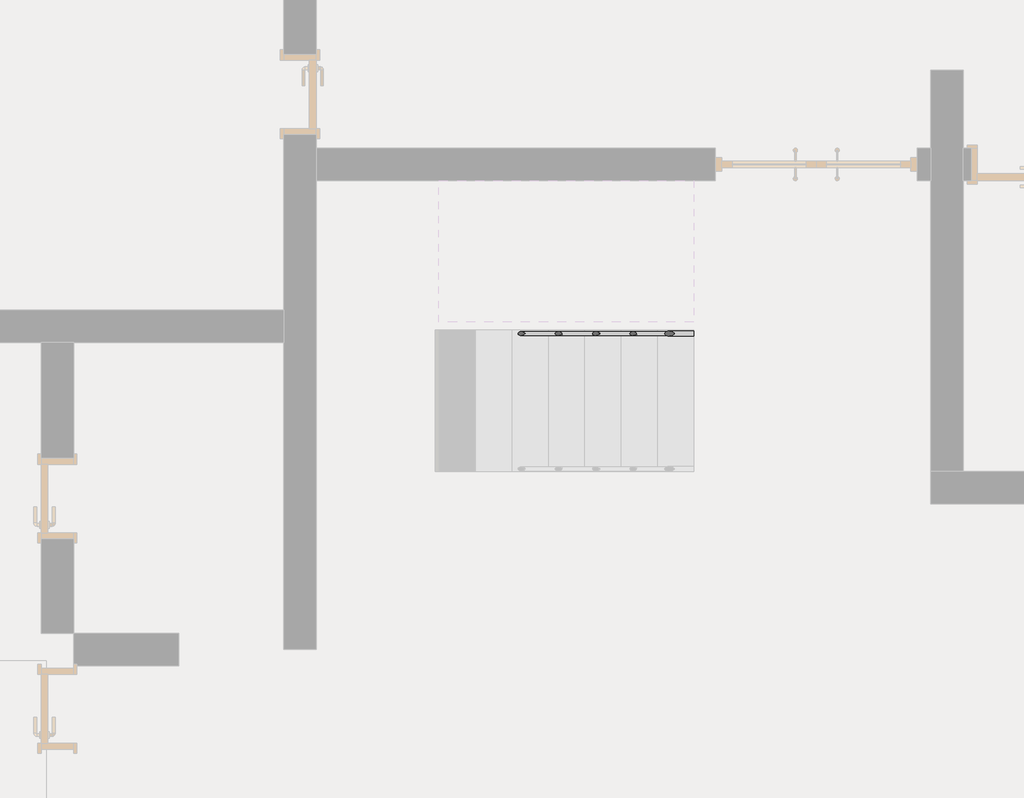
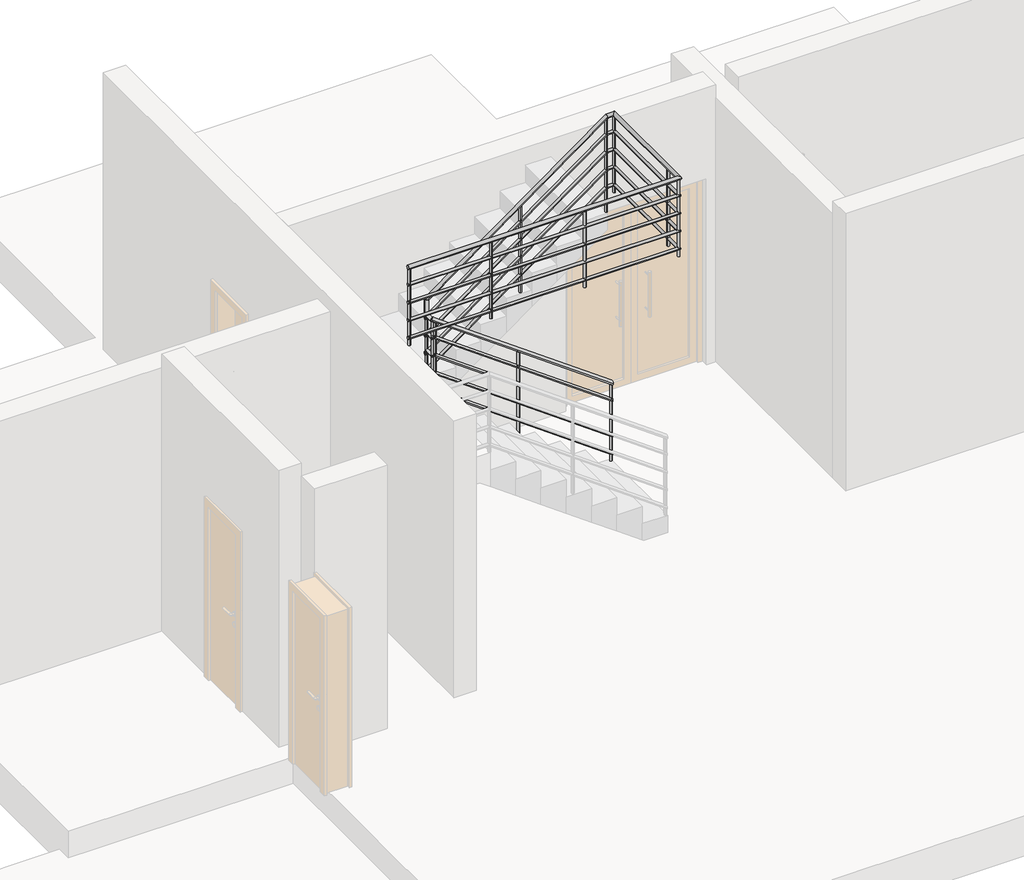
# One storey, part 2 of 3: 1 railing.
"""IFC4 building model written with IfcOpenShell, lengths in millimetres."""

from ifc_helpers import new_model, si_unit, point, frame, frame_2d, origin, place, context, project, spatial, circle_curve, ellipse_curve, trimmed, segment, composite_curve, outline, extrude, element, save
from ifc_brep_helpers import plane_surface, cylinder_surface, advanced_brep

model = new_model("IFC4")

# Units and contexts
model_context = context("Model", 3, world=origin())
ifc_project = project(units=[si_unit("LENGTHUNIT", "METRE", prefix="MILLI")], contexts=[model_context])

# Site, building, storey
site = spatial("IfcSite", under=ifc_project)
building = spatial("IfcBuilding", under=site)
storey = spatial("IfcBuildingStorey", under=building, Name="标高 1", Elevation=0.0)

# Railing
placement = place(None, origin())
element("IfcRailing", 1, ObjectType="900mm 圆管", at=placement, inside=storey, context=model_context, shape_type="SolidModel", body=[
    advanced_brep(
    [(-41537.1400177, -19143.1106127, 1070.6282695), (-41537.1400177, -19183.1106127, 1070.6282695), (-43448.0574737, -19143.1106127, 2452.9470311), (-43480.4668292, -19183.1106127, 2476.3912986)],
    [
        (0, 1, ellipse_curve(frame((-41537.1400177, -19163.1106127, 1070.6282695), z_axis=(1.0, 0.0, 0.0), x_axis=(0.0, 0.0, -1.0)), 24.6842305, 20.0)),
        (1, 0, ellipse_curve(frame((-41537.1400177, -19163.1106127, 1070.6282695), z_axis=(1.0, 0.0, 0.0), x_axis=(0.0, 0.0, -1.0)), 24.6842305, 20.0)),
        (2, 3, ellipse_curve(frame((-43464.2621514, -19163.1106127, 2464.6691649), z_axis=(-0.5729218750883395, 0.7071067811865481, 0.41444001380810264), x_axis=(0.5729218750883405, 0.7071067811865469, -0.4144400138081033)), 28.2842712, 20.0)),
        (3, 2, ellipse_curve(frame((-43464.2621514, -19163.1106127, 2464.6691649), z_axis=(-0.5729218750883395, 0.7071067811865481, 0.41444001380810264), x_axis=(0.5729218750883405, 0.7071067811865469, -0.4144400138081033)), 28.2842712, 20.0)),
        (0, 2),
        (3, 1),
    ],
    [
        plane_surface(frame((-41537.1400177, -19163.1106127, 1095.3125), z_axis=(1.0, 0.0, 0.0), x_axis=(0.0, -1.0, 0.0))),
        plane_surface(frame((-43452.5400177, -19163.1106127, 2480.8738426), z_axis=(-0.5729218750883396, 0.7071067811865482, 0.41444001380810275), x_axis=(0.8196099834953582, 0.49428014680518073, 0.28970089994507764))),
        cylinder_surface(frame((-41548.8621514, -19163.1106127, 1079.1078223), z_axis=(0.8102338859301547, 0.0, -0.586106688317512), x_axis=(0.0, -1.0, 0.0)), 20.0),
    ],
    [
        (0, [[1, 2]]),
        (1, [[3, 4]]),
        (2, [[-1, 5, -4, 6]]),
        (2, [[-2, -6, -3, -5]]),
    ],
),
    advanced_brep(
    [(-43432.5400177, -19135.1838013, 2442.5), (-43472.5400177, -19167.5931567, 2442.5), (-43432.5400177, -19052.3106127, 2442.5), (-43472.5400177, -19052.3106127, 2442.5)],
    [
        (0, 1, ellipse_curve(frame((-43452.5400177, -19151.388479, 2442.5), z_axis=(0.5729218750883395, -0.7071067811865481, -0.41444001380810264), x_axis=(-0.5729218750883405, -0.7071067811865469, 0.4144400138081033)), 28.2842712, 20.0)),
        (1, 0, ellipse_curve(frame((-43452.5400177, -19151.388479, 2442.5), z_axis=(0.5729218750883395, -0.7071067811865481, -0.41444001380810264), x_axis=(-0.5729218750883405, -0.7071067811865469, 0.4144400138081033)), 28.2842712, 20.0)),
        (2, 3, ellipse_curve(frame((-43452.5400177, -19052.3106127, 2442.5), z_axis=(0.0, 0.7071067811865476, 0.7071067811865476), x_axis=(0.0, -0.7071067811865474, 0.7071067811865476)), 28.2842712, 20.0)),
        (3, 2, ellipse_curve(frame((-43452.5400177, -19052.3106127, 2442.5), z_axis=(0.0, 0.7071067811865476, 0.7071067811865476), x_axis=(0.0, -0.7071067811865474, 0.7071067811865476)), 28.2842712, 20.0)),
        (0, 2),
        (3, 1),
    ],
    [
        plane_surface(frame((-43452.5400177, -19163.1106127, 2462.5), z_axis=(0.5729218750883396, -0.7071067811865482, -0.41444001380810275), x_axis=(0.8196099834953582, 0.49428014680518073, 0.28970089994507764))),
        plane_surface(frame((-43452.5400177, -19072.3106127, 2462.5), z_axis=(0.0, 0.7071067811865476, 0.7071067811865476), x_axis=(1.0, 0.0, 0.0))),
        cylinder_surface(frame((-43452.5400177, -19163.1106127, 2442.5), z_axis=(0.0, -1.0, 0.0), x_axis=(-1.0, 0.0, 0.0)), 20.0),
    ],
    [
        (0, [[1, 2]]),
        (1, [[3, 4]]),
        (2, [[-1, 5, -4, 6]]),
        (2, [[-2, -6, -3, -5]]),
    ],
),
    advanced_brep(
    [(-43432.5400177, -19052.3106127, 2442.5), (-43472.5400177, -19052.3106127, 2442.5), (-43432.5400177, -19052.3106127, 2604.537789), (-43472.5400177, -19052.3106127, 2624.9710648)],
    [
        (0, 1, ellipse_curve(frame((-43452.5400177, -19052.3106127, 2442.5), z_axis=(0.0, -0.7071067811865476, -0.7071067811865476), x_axis=(0.0, 0.7071067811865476, -0.7071067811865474)), 28.2842712, 20.0)),
        (1, 0, ellipse_curve(frame((-43452.5400177, -19052.3106127, 2442.5), z_axis=(0.0, -0.7071067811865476, -0.7071067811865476), x_axis=(0.0, 0.7071067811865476, -0.7071067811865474)), 28.2842712, 20.0)),
        (2, 3, ellipse_curve(frame((-43452.5400177, -19052.3106127, 2614.7544269), z_axis=(0.454913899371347, 0.0, 0.8905354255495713), x_axis=(0.8905354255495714, 0.0, -0.45491389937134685)), 22.4583991, 20.0)),
        (3, 2, ellipse_curve(frame((-43452.5400177, -19052.3106127, 2614.7544269), z_axis=(0.454913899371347, 0.0, 0.8905354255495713), x_axis=(0.8905354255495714, 0.0, -0.45491389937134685)), 22.4583991, 20.0)),
        (0, 2),
        (3, 1),
    ],
    [
        plane_surface(frame((-43452.5400177, -19052.3106127, 2442.5), z_axis=(0.0, -0.7071067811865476, -0.7071067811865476), x_axis=(1.0, 0.0, 0.0))),
        plane_surface(frame((-43452.5400177, -19052.3106127, 2614.7544269), z_axis=(0.454913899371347, 0.0, 0.8905354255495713), x_axis=(0.8905354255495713, 0.0, -0.454913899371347))),
        cylinder_surface(frame((-43452.5400177, -19052.3106127, 2442.5), z_axis=(0.0, 0.0, -1.0), x_axis=(-1.0, 0.0, 0.0)), 20.0),
    ],
    [
        (0, [[1, 2]]),
        (1, [[3, 4]]),
        (2, [[-1, 5, -4, 6]]),
        (2, [[-2, -6, -3, -5]]),
    ],
),
    advanced_brep(
    [(-43452.5400177, -19072.3106127, 2614.7544269), (-43452.5400177, -19032.3106127, 2614.7544269), (-41530.6645374, -19072.3106127, 4005.0), (-41530.6645374, -19032.3106127, 4005.0), (-41471.7400177, -19072.3106127, 4005.0), (-41431.7400177, -19032.3106127, 4005.0), (-41471.7400177, -20223.1106127, 4005.0), (-41431.7400177, -20263.1106127, 4005.0), (-44337.1400177, -20223.1106127, 4005.0), (-44337.1400177, -20263.1106127, 4005.0)],
    [
        (0, 1, ellipse_curve(frame((-43452.5400177, -19052.3106127, 2614.7544269), z_axis=(-0.454913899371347, 0.0, -0.8905354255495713), x_axis=(-0.8905354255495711, 0.0, 0.4549138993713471)), 22.4583991, 20.0)),
        (1, 0, ellipse_curve(frame((-43452.5400177, -19052.3106127, 2614.7544269), z_axis=(-0.454913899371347, 0.0, -0.8905354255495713), x_axis=(-0.8905354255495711, 0.0, 0.4549138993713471)), 22.4583991, 20.0)),
        (0, 2),
        (2, 3, ellipse_curve(frame((-41530.6645374, -19052.3106127, 4005.0), z_axis=(-0.9513763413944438, 0.0, -0.30803093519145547), x_axis=(0.30803093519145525, 0.0, -0.9513763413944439)), 21.0221751, 20.0)),
        (3, 1),
        (3, 2, ellipse_curve(frame((-41530.6645374, -19052.3106127, 4005.0), z_axis=(-0.9513763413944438, 0.0, -0.30803093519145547), x_axis=(0.30803093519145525, 0.0, -0.9513763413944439)), 21.0221751, 20.0)),
        (2, 4),
        (4, 5, ellipse_curve(frame((-41451.7400177, -19052.3106127, 4005.0), z_axis=(-0.707106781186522, 0.7071067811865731, 0.0), x_axis=(-0.7071067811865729, -0.7071067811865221, 0.0)), 28.2842712, 20.0)),
        (5, 3),
        (5, 4, ellipse_curve(frame((-41451.7400177, -19052.3106127, 4005.0), z_axis=(-0.707106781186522, 0.7071067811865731, 0.0), x_axis=(-0.7071067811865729, -0.7071067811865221, 0.0)), 28.2842712, 20.0)),
        (4, 6),
        (6, 7, ellipse_curve(frame((-41451.7400177, -20243.1106127, 4005.0), z_axis=(0.7071067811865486, 0.7071067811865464, 0.0), x_axis=(-0.7071067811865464, 0.7071067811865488, 0.0)), 28.2842712, 20.0)),
        (7, 5),
        (7, 6, ellipse_curve(frame((-41451.7400177, -20243.1106127, 4005.0), z_axis=(0.7071067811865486, 0.7071067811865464, 0.0), x_axis=(-0.7071067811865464, 0.7071067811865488, 0.0)), 28.2842712, 20.0)),
        (8, 9, circle_curve(frame((-44337.1400177, -20243.1106127, 4005.0), z_axis=(-1.0, 0.0, 0.0), x_axis=(0.0, -1.0, 0.0)), 20.0)),
        (9, 8, circle_curve(frame((-44337.1400177, -20243.1106127, 4005.0), z_axis=(-1.0, 0.0, 0.0), x_axis=(0.0, -1.0, 0.0)), 20.0)),
        (6, 8),
        (9, 7),
    ],
    [
        plane_surface(frame((-43472.5400177, -19052.3106127, 2624.9710648), z_axis=(-0.454913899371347, 0.0, -0.8905354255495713), x_axis=(0.8905354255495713, 0.0, -0.454913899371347))),
        cylinder_surface(frame((-43460.8178839, -19052.3106127, 2608.7663871), z_axis=(-0.8102338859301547, 0.0, -0.586106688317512), x_axis=(0.0, 1.0, 0.0)), 20.0),
        cylinder_surface(frame((-41537.1400177, -19052.3106127, 4005.0), z_axis=(-1.0, 0.0, 0.0), x_axis=(0.0, 1.0, 0.0)), 20.0),
        cylinder_surface(frame((-41451.7400177, -19052.3106127, 4005.0), z_axis=(0.0, 1.0, 0.0), x_axis=(1.0, 0.0, 0.0)), 20.0),
        plane_surface(frame((-44337.1400177, -20243.1106127, 4025.0), z_axis=(-1.0, 0.0, 0.0), x_axis=(0.0, -1.0, 0.0))),
        cylinder_surface(frame((-41451.7400177, -20243.1106127, 4005.0), z_axis=(1.0, 0.0, 0.0), x_axis=(0.0, -1.0, 0.0)), 20.0),
    ],
    [
        (0, [[1, 2]]),
        (1, [[-1, 3, 4, 5]]),
        (1, [[-2, -5, 6, -3]]),
        (2, [[-4, 7, 8, 9]]),
        (2, [[-6, -9, 10, -7]]),
        (3, [[-8, 11, 12, 13]]),
        (3, [[-10, -13, 14, -11]]),
        (4, [[15, 16]]),
        (5, [[-12, 17, -16, 18]]),
        (5, [[-14, -18, -15, -17]]),
    ],
),
    advanced_brep(
    [(-41537.1400177, -19178.1106127, 876.7993271), (-41537.1400177, -19148.1106127, 876.7993271), (-43431.9966278, -19178.1106127, 2247.5), (-43431.9966278, -19148.1106127, 2247.5), (-43467.5400177, -19178.1106127, 2247.5), (-43437.5400177, -19148.1106127, 2247.5), (-43467.5400177, -19067.3106127, 2247.5), (-43437.5400177, -19067.3106127, 2247.5)],
    [
        (0, 1, ellipse_curve(frame((-41537.1400177, -19163.1106127, 876.7993271), z_axis=(1.0, 0.0, 0.0), x_axis=(0.0, 0.0, -1.0)), 18.5131729, 15.0)),
        (1, 0, ellipse_curve(frame((-41537.1400177, -19163.1106127, 876.7993271), z_axis=(1.0, 0.0, 0.0), x_axis=(0.0, 0.0, -1.0)), 18.5131729, 15.0)),
        (0, 2),
        (2, 3, ellipse_curve(frame((-43431.9966278, -19163.1106127, 2247.5), z_axis=(0.9513763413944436, 0.0, -0.3080309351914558), x_axis=(-0.3080309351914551, 0.0, -0.9513763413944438)), 15.7666313, 15.0)),
        (3, 1),
        (3, 2, ellipse_curve(frame((-43431.9966278, -19163.1106127, 2247.5), z_axis=(0.9513763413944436, 0.0, -0.3080309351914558), x_axis=(-0.3080309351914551, 0.0, -0.9513763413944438)), 15.7666313, 15.0)),
        (2, 4),
        (4, 5, ellipse_curve(frame((-43452.5400177, -19163.1106127, 2247.5), z_axis=(0.7071067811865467, -0.7071067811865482, 0.0), x_axis=(0.7071067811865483, 0.7071067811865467, 0.0)), 21.2132034, 15.0)),
        (5, 3),
        (5, 4, ellipse_curve(frame((-43452.5400177, -19163.1106127, 2247.5), z_axis=(0.7071067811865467, -0.7071067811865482, 0.0), x_axis=(0.7071067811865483, 0.7071067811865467, 0.0)), 21.2132034, 15.0)),
        (6, 7, circle_curve(frame((-43452.5400177, -19067.3106127, 2247.5), z_axis=(0.0, 1.0, 0.0), x_axis=(1.0, 0.0, 0.0)), 15.0)),
        (7, 6, circle_curve(frame((-43452.5400177, -19067.3106127, 2247.5), z_axis=(0.0, 1.0, 0.0), x_axis=(1.0, 0.0, 0.0)), 15.0)),
        (4, 6),
        (7, 5),
    ],
    [
        plane_surface(frame((-41537.1400177, -19163.1106127, 895.3125), z_axis=(1.0, 0.0, 0.0), x_axis=(0.0, -1.0, 0.0))),
        cylinder_surface(frame((-41545.931618, -19163.1106127, 883.1589917), z_axis=(0.8102338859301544, 0.0, -0.5861066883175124), x_axis=(0.0, 1.0, 0.0)), 15.0),
        cylinder_surface(frame((-43427.1400177, -19163.1106127, 2247.5), z_axis=(1.0, 0.0, 0.0), x_axis=(0.0, 1.0, 0.0)), 15.0),
        plane_surface(frame((-43452.5400177, -19067.3106127, 2262.5), z_axis=(0.0, 1.0, 0.0), x_axis=(0.0, 0.0, 1.0))),
        cylinder_surface(frame((-43452.5400177, -19163.1106127, 2247.5), z_axis=(0.0, -1.0, 0.0), x_axis=(1.0, 0.0, 0.0)), 15.0),
    ],
    [
        (0, [[1, 2]]),
        (1, [[-1, 3, 4, 5]]),
        (1, [[-2, -5, 6, -3]]),
        (2, [[-4, 7, 8, 9]]),
        (2, [[-6, -9, 10, -7]]),
        (3, [[11, 12]]),
        (4, [[-8, 13, -12, 14]]),
        (4, [[-10, -14, -11, -13]]),
    ],
),
    advanced_brep(
    [(-43467.5400177, -19037.3106127, 2410.0747901), (-43467.5400177, -19067.3106127, 2410.0747901), (-41532.2834075, -19037.3106127, 3810.0), (-41532.2834075, -19067.3106127, 3810.0), (-41436.7400177, -19037.3106127, 3810.0), (-41466.7400177, -19067.3106127, 3810.0), (-41436.7400177, -20258.1106127, 3810.0), (-41466.7400177, -20228.1106127, 3810.0), (-44337.1400177, -20258.1106127, 3810.0), (-44337.1400177, -20228.1106127, 3810.0)],
    [
        (0, 1, ellipse_curve(frame((-43467.5400177, -19052.3106127, 2410.0747901), z_axis=(-1.0, 0.0, 0.0), x_axis=(0.0, 0.0, -1.0)), 18.5131729, 15.0)),
        (1, 0, ellipse_curve(frame((-43467.5400177, -19052.3106127, 2410.0747901), z_axis=(-1.0, 0.0, 0.0), x_axis=(0.0, 0.0, -1.0)), 18.5131729, 15.0)),
        (0, 2),
        (2, 3, ellipse_curve(frame((-41532.2834075, -19052.3106127, 3810.0), z_axis=(-0.9513763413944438, 0.0, -0.30803093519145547), x_axis=(0.30803093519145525, 0.0, -0.9513763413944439)), 15.7666313, 15.0)),
        (3, 1),
        (3, 2, ellipse_curve(frame((-41532.2834075, -19052.3106127, 3810.0), z_axis=(-0.9513763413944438, 0.0, -0.30803093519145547), x_axis=(0.30803093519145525, 0.0, -0.9513763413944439)), 15.7666313, 15.0)),
        (2, 4),
        (4, 5, ellipse_curve(frame((-41451.7400177, -19052.3106127, 3810.0), z_axis=(-0.707106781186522, 0.7071067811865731, 0.0), x_axis=(-0.7071067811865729, -0.7071067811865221, 0.0)), 21.2132034, 15.0)),
        (5, 3),
        (5, 4, ellipse_curve(frame((-41451.7400177, -19052.3106127, 3810.0), z_axis=(-0.707106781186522, 0.7071067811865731, 0.0), x_axis=(-0.7071067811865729, -0.7071067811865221, 0.0)), 21.2132034, 15.0)),
        (4, 6),
        (6, 7, ellipse_curve(frame((-41451.7400177, -20243.1106127, 3810.0), z_axis=(0.7071067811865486, 0.7071067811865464, 0.0), x_axis=(-0.7071067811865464, 0.7071067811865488, 0.0)), 21.2132034, 15.0)),
        (7, 5),
        (7, 6, ellipse_curve(frame((-41451.7400177, -20243.1106127, 3810.0), z_axis=(0.7071067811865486, 0.7071067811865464, 0.0), x_axis=(-0.7071067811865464, 0.7071067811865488, 0.0)), 21.2132034, 15.0)),
        (8, 9, circle_curve(frame((-44337.1400177, -20243.1106127, 3810.0), z_axis=(-1.0, 0.0, 0.0), x_axis=(0.0, 1.0, 0.0)), 15.0)),
        (9, 8, circle_curve(frame((-44337.1400177, -20243.1106127, 3810.0), z_axis=(-1.0, 0.0, 0.0), x_axis=(0.0, 1.0, 0.0)), 15.0)),
        (6, 8),
        (9, 7),
    ],
    [
        plane_surface(frame((-43467.5400177, -19052.3106127, 2428.587963), z_axis=(-1.0, 0.0, 0.0), x_axis=(0.0, 1.0, 0.0))),
        cylinder_surface(frame((-43458.7484173, -19052.3106127, 2416.4344547), z_axis=(-0.8102338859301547, 0.0, -0.586106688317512), x_axis=(0.0, -1.0, 0.0)), 15.0),
        cylinder_surface(frame((-41537.1400177, -19052.3106127, 3810.0), z_axis=(-1.0, 0.0, 0.0), x_axis=(0.0, -1.0, 0.0)), 15.0),
        cylinder_surface(frame((-41451.7400177, -19052.3106127, 3810.0), z_axis=(0.0, 1.0, 0.0), x_axis=(-1.0, 0.0, 0.0)), 15.0),
        plane_surface(frame((-44337.1400177, -20243.1106127, 3825.0), z_axis=(-1.0, 0.0, 0.0), x_axis=(0.0, -1.0, 0.0))),
        cylinder_surface(frame((-41451.7400177, -20243.1106127, 3810.0), z_axis=(1.0, 0.0, 0.0), x_axis=(0.0, 1.0, 0.0)), 15.0),
    ],
    [
        (0, [[1, 2]]),
        (1, [[-1, 3, 4, 5]]),
        (1, [[-2, -5, 6, -3]]),
        (2, [[-4, 7, 8, 9]]),
        (2, [[-6, -9, 10, -7]]),
        (3, [[-8, 11, 12, 13]]),
        (3, [[-10, -13, 14, -11]]),
        (4, [[15, 16]]),
        (5, [[-12, 17, -16, 18]]),
        (5, [[-14, -18, -15, -17]]),
    ],
),
    advanced_brep(
    [(-41537.1400177, -19178.1106127, 676.7993271), (-41537.1400177, -19148.1106127, 676.7993271), (-43431.9966278, -19178.1106127, 2047.5), (-43431.9966278, -19148.1106127, 2047.5), (-43467.5400177, -19178.1106127, 2047.5), (-43437.5400177, -19148.1106127, 2047.5), (-43467.5400177, -19067.3106127, 2047.5), (-43437.5400177, -19067.3106127, 2047.5)],
    [
        (0, 1, ellipse_curve(frame((-41537.1400177, -19163.1106127, 676.7993271), z_axis=(1.0, 0.0, 0.0), x_axis=(0.0, 0.0, -1.0)), 18.5131729, 15.0)),
        (1, 0, ellipse_curve(frame((-41537.1400177, -19163.1106127, 676.7993271), z_axis=(1.0, 0.0, 0.0), x_axis=(0.0, 0.0, -1.0)), 18.5131729, 15.0)),
        (0, 2),
        (2, 3, ellipse_curve(frame((-43431.9966278, -19163.1106127, 2047.5), z_axis=(0.9513763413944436, 0.0, -0.3080309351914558), x_axis=(-0.3080309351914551, 0.0, -0.9513763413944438)), 15.7666313, 15.0)),
        (3, 1),
        (3, 2, ellipse_curve(frame((-43431.9966278, -19163.1106127, 2047.5), z_axis=(0.9513763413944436, 0.0, -0.3080309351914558), x_axis=(-0.3080309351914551, 0.0, -0.9513763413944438)), 15.7666313, 15.0)),
        (2, 4),
        (4, 5, ellipse_curve(frame((-43452.5400177, -19163.1106127, 2047.5), z_axis=(0.7071067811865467, -0.7071067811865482, 0.0), x_axis=(0.7071067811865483, 0.7071067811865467, 0.0)), 21.2132034, 15.0)),
        (5, 3),
        (5, 4, ellipse_curve(frame((-43452.5400177, -19163.1106127, 2047.5), z_axis=(0.7071067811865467, -0.7071067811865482, 0.0), x_axis=(0.7071067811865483, 0.7071067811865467, 0.0)), 21.2132034, 15.0)),
        (6, 7, circle_curve(frame((-43452.5400177, -19067.3106127, 2047.5), z_axis=(0.0, 1.0, 0.0), x_axis=(1.0, 0.0, 0.0)), 15.0)),
        (7, 6, circle_curve(frame((-43452.5400177, -19067.3106127, 2047.5), z_axis=(0.0, 1.0, 0.0), x_axis=(1.0, 0.0, 0.0)), 15.0)),
        (4, 6),
        (7, 5),
    ],
    [
        plane_surface(frame((-41537.1400177, -19163.1106127, 695.3125), z_axis=(1.0, 0.0, 0.0), x_axis=(0.0, -1.0, 0.0))),
        cylinder_surface(frame((-41545.931618, -19163.1106127, 683.1589917), z_axis=(0.8102338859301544, 0.0, -0.5861066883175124), x_axis=(0.0, 1.0, 0.0)), 15.0),
        cylinder_surface(frame((-43427.1400177, -19163.1106127, 2047.5), z_axis=(1.0, 0.0, 0.0), x_axis=(0.0, 1.0, 0.0)), 15.0),
        plane_surface(frame((-43452.5400177, -19067.3106127, 2062.5), z_axis=(0.0, 1.0, 0.0), x_axis=(0.0, 0.0, 1.0))),
        cylinder_surface(frame((-43452.5400177, -19163.1106127, 2047.5), z_axis=(0.0, -1.0, 0.0), x_axis=(1.0, 0.0, 0.0)), 15.0),
    ],
    [
        (0, [[1, 2]]),
        (1, [[-1, 3, 4, 5]]),
        (1, [[-2, -5, 6, -3]]),
        (2, [[-4, 7, 8, 9]]),
        (2, [[-6, -9, 10, -7]]),
        (3, [[11, 12]]),
        (4, [[-8, 13, -12, 14]]),
        (4, [[-10, -14, -11, -13]]),
    ],
),
    advanced_brep(
    [(-43467.5400177, -19037.3106127, 2210.0747901), (-43467.5400177, -19067.3106127, 2210.0747901), (-41532.2834075, -19037.3106127, 3610.0), (-41532.2834075, -19067.3106127, 3610.0), (-41436.7400177, -19037.3106127, 3610.0), (-41466.7400177, -19067.3106127, 3610.0), (-41436.7400177, -20258.1106127, 3610.0), (-41466.7400177, -20228.1106127, 3610.0), (-44337.1400177, -20258.1106127, 3610.0), (-44337.1400177, -20228.1106127, 3610.0)],
    [
        (0, 1, ellipse_curve(frame((-43467.5400177, -19052.3106127, 2210.0747901), z_axis=(-1.0, 0.0, 0.0), x_axis=(0.0, 0.0, -1.0)), 18.5131729, 15.0)),
        (1, 0, ellipse_curve(frame((-43467.5400177, -19052.3106127, 2210.0747901), z_axis=(-1.0, 0.0, 0.0), x_axis=(0.0, 0.0, -1.0)), 18.5131729, 15.0)),
        (0, 2),
        (2, 3, ellipse_curve(frame((-41532.2834075, -19052.3106127, 3610.0), z_axis=(-0.9513763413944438, 0.0, -0.30803093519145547), x_axis=(0.30803093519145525, 0.0, -0.9513763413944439)), 15.7666313, 15.0)),
        (3, 1),
        (3, 2, ellipse_curve(frame((-41532.2834075, -19052.3106127, 3610.0), z_axis=(-0.9513763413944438, 0.0, -0.30803093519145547), x_axis=(0.30803093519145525, 0.0, -0.9513763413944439)), 15.7666313, 15.0)),
        (2, 4),
        (4, 5, ellipse_curve(frame((-41451.7400177, -19052.3106127, 3610.0), z_axis=(-0.707106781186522, 0.7071067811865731, 0.0), x_axis=(-0.7071067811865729, -0.7071067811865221, 0.0)), 21.2132034, 15.0)),
        (5, 3),
        (5, 4, ellipse_curve(frame((-41451.7400177, -19052.3106127, 3610.0), z_axis=(-0.707106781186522, 0.7071067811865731, 0.0), x_axis=(-0.7071067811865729, -0.7071067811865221, 0.0)), 21.2132034, 15.0)),
        (4, 6),
        (6, 7, ellipse_curve(frame((-41451.7400177, -20243.1106127, 3610.0), z_axis=(0.7071067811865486, 0.7071067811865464, 0.0), x_axis=(-0.7071067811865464, 0.7071067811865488, 0.0)), 21.2132034, 15.0)),
        (7, 5),
        (7, 6, ellipse_curve(frame((-41451.7400177, -20243.1106127, 3610.0), z_axis=(0.7071067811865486, 0.7071067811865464, 0.0), x_axis=(-0.7071067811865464, 0.7071067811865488, 0.0)), 21.2132034, 15.0)),
        (8, 9, circle_curve(frame((-44337.1400177, -20243.1106127, 3610.0), z_axis=(-1.0, 0.0, 0.0), x_axis=(0.0, 1.0, 0.0)), 15.0)),
        (9, 8, circle_curve(frame((-44337.1400177, -20243.1106127, 3610.0), z_axis=(-1.0, 0.0, 0.0), x_axis=(0.0, 1.0, 0.0)), 15.0)),
        (6, 8),
        (9, 7),
    ],
    [
        plane_surface(frame((-43467.5400177, -19052.3106127, 2228.587963), z_axis=(-1.0, 0.0, 0.0), x_axis=(0.0, 1.0, 0.0))),
        cylinder_surface(frame((-43458.7484173, -19052.3106127, 2216.4344547), z_axis=(-0.8102338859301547, 0.0, -0.586106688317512), x_axis=(0.0, -1.0, 0.0)), 15.0),
        cylinder_surface(frame((-41537.1400177, -19052.3106127, 3610.0), z_axis=(-1.0, 0.0, 0.0), x_axis=(0.0, -1.0, 0.0)), 15.0),
        cylinder_surface(frame((-41451.7400177, -19052.3106127, 3610.0), z_axis=(0.0, 1.0, 0.0), x_axis=(-1.0, 0.0, 0.0)), 15.0),
        plane_surface(frame((-44337.1400177, -20243.1106127, 3625.0), z_axis=(-1.0, 0.0, 0.0), x_axis=(0.0, -1.0, 0.0))),
        cylinder_surface(frame((-41451.7400177, -20243.1106127, 3610.0), z_axis=(1.0, 0.0, 0.0), x_axis=(0.0, 1.0, 0.0)), 15.0),
    ],
    [
        (0, [[1, 2]]),
        (1, [[-1, 3, 4, 5]]),
        (1, [[-2, -5, 6, -3]]),
        (2, [[-4, 7, 8, 9]]),
        (2, [[-6, -9, 10, -7]]),
        (3, [[-8, 11, 12, 13]]),
        (3, [[-10, -13, 14, -11]]),
        (4, [[15, 16]]),
        (5, [[-12, 17, -16, 18]]),
        (5, [[-14, -18, -15, -17]]),
    ],
),
    advanced_brep(
    [(-41537.1400177, -19178.1106127, 476.7993271), (-41537.1400177, -19148.1106127, 476.7993271), (-43431.9966278, -19178.1106127, 1847.5), (-43431.9966278, -19148.1106127, 1847.5), (-43467.5400177, -19178.1106127, 1847.5), (-43437.5400177, -19148.1106127, 1847.5), (-43467.5400177, -19067.3106127, 1847.5), (-43437.5400177, -19067.3106127, 1847.5)],
    [
        (0, 1, ellipse_curve(frame((-41537.1400177, -19163.1106127, 476.7993271), z_axis=(1.0, 0.0, 0.0), x_axis=(0.0, 0.0, -1.0)), 18.5131729, 15.0)),
        (1, 0, ellipse_curve(frame((-41537.1400177, -19163.1106127, 476.7993271), z_axis=(1.0, 0.0, 0.0), x_axis=(0.0, 0.0, -1.0)), 18.5131729, 15.0)),
        (0, 2),
        (2, 3, ellipse_curve(frame((-43431.9966278, -19163.1106127, 1847.5), z_axis=(0.9513763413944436, 0.0, -0.3080309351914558), x_axis=(-0.3080309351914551, 0.0, -0.9513763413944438)), 15.7666313, 15.0)),
        (3, 1),
        (3, 2, ellipse_curve(frame((-43431.9966278, -19163.1106127, 1847.5), z_axis=(0.9513763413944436, 0.0, -0.3080309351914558), x_axis=(-0.3080309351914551, 0.0, -0.9513763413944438)), 15.7666313, 15.0)),
        (2, 4),
        (4, 5, ellipse_curve(frame((-43452.5400177, -19163.1106127, 1847.5), z_axis=(0.7071067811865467, -0.7071067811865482, 0.0), x_axis=(0.7071067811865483, 0.7071067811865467, 0.0)), 21.2132034, 15.0)),
        (5, 3),
        (5, 4, ellipse_curve(frame((-43452.5400177, -19163.1106127, 1847.5), z_axis=(0.7071067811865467, -0.7071067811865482, 0.0), x_axis=(0.7071067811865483, 0.7071067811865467, 0.0)), 21.2132034, 15.0)),
        (6, 7, circle_curve(frame((-43452.5400177, -19067.3106127, 1847.5), z_axis=(0.0, 1.0, 0.0), x_axis=(1.0, 0.0, 0.0)), 15.0)),
        (7, 6, circle_curve(frame((-43452.5400177, -19067.3106127, 1847.5), z_axis=(0.0, 1.0, 0.0), x_axis=(1.0, 0.0, 0.0)), 15.0)),
        (4, 6),
        (7, 5),
    ],
    [
        plane_surface(frame((-41537.1400177, -19163.1106127, 495.3125), z_axis=(1.0, 0.0, 0.0), x_axis=(0.0, -1.0, 0.0))),
        cylinder_surface(frame((-41545.931618, -19163.1106127, 483.1589917), z_axis=(0.8102338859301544, 0.0, -0.5861066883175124), x_axis=(0.0, 1.0, 0.0)), 15.0),
        cylinder_surface(frame((-43427.1400177, -19163.1106127, 1847.5), z_axis=(1.0, 0.0, 0.0), x_axis=(0.0, 1.0, 0.0)), 15.0),
        plane_surface(frame((-43452.5400177, -19067.3106127, 1862.5), z_axis=(0.0, 1.0, 0.0), x_axis=(0.0, 0.0, 1.0))),
        cylinder_surface(frame((-43452.5400177, -19163.1106127, 1847.5), z_axis=(0.0, -1.0, 0.0), x_axis=(1.0, 0.0, 0.0)), 15.0),
    ],
    [
        (0, [[1, 2]]),
        (1, [[-1, 3, 4, 5]]),
        (1, [[-2, -5, 6, -3]]),
        (2, [[-4, 7, 8, 9]]),
        (2, [[-6, -9, 10, -7]]),
        (3, [[11, 12]]),
        (4, [[-8, 13, -12, 14]]),
        (4, [[-10, -14, -11, -13]]),
    ],
),
    advanced_brep(
    [(-43467.5400177, -19037.3106127, 2010.0747901), (-43467.5400177, -19067.3106127, 2010.0747901), (-41532.2834075, -19037.3106127, 3410.0), (-41532.2834075, -19067.3106127, 3410.0), (-41436.7400177, -19037.3106127, 3410.0), (-41466.7400177, -19067.3106127, 3410.0), (-41436.7400177, -20258.1106127, 3410.0), (-41466.7400177, -20228.1106127, 3410.0), (-44337.1400177, -20258.1106127, 3410.0), (-44337.1400177, -20228.1106127, 3410.0)],
    [
        (0, 1, ellipse_curve(frame((-43467.5400177, -19052.3106127, 2010.0747901), z_axis=(-1.0, 0.0, 0.0), x_axis=(0.0, 0.0, -1.0)), 18.5131729, 15.0)),
        (1, 0, ellipse_curve(frame((-43467.5400177, -19052.3106127, 2010.0747901), z_axis=(-1.0, 0.0, 0.0), x_axis=(0.0, 0.0, -1.0)), 18.5131729, 15.0)),
        (0, 2),
        (2, 3, ellipse_curve(frame((-41532.2834075, -19052.3106127, 3410.0), z_axis=(-0.9513763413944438, 0.0, -0.30803093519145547), x_axis=(0.30803093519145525, 0.0, -0.9513763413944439)), 15.7666313, 15.0)),
        (3, 1),
        (3, 2, ellipse_curve(frame((-41532.2834075, -19052.3106127, 3410.0), z_axis=(-0.9513763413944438, 0.0, -0.30803093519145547), x_axis=(0.30803093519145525, 0.0, -0.9513763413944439)), 15.7666313, 15.0)),
        (2, 4),
        (4, 5, ellipse_curve(frame((-41451.7400177, -19052.3106127, 3410.0), z_axis=(-0.707106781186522, 0.7071067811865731, 0.0), x_axis=(-0.7071067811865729, -0.7071067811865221, 0.0)), 21.2132034, 15.0)),
        (5, 3),
        (5, 4, ellipse_curve(frame((-41451.7400177, -19052.3106127, 3410.0), z_axis=(-0.707106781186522, 0.7071067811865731, 0.0), x_axis=(-0.7071067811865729, -0.7071067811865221, 0.0)), 21.2132034, 15.0)),
        (4, 6),
        (6, 7, ellipse_curve(frame((-41451.7400177, -20243.1106127, 3410.0), z_axis=(0.7071067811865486, 0.7071067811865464, 0.0), x_axis=(-0.7071067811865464, 0.7071067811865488, 0.0)), 21.2132034, 15.0)),
        (7, 5),
        (7, 6, ellipse_curve(frame((-41451.7400177, -20243.1106127, 3410.0), z_axis=(0.7071067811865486, 0.7071067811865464, 0.0), x_axis=(-0.7071067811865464, 0.7071067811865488, 0.0)), 21.2132034, 15.0)),
        (8, 9, circle_curve(frame((-44337.1400177, -20243.1106127, 3410.0), z_axis=(-1.0, 0.0, 0.0), x_axis=(0.0, 1.0, 0.0)), 15.0)),
        (9, 8, circle_curve(frame((-44337.1400177, -20243.1106127, 3410.0), z_axis=(-1.0, 0.0, 0.0), x_axis=(0.0, 1.0, 0.0)), 15.0)),
        (6, 8),
        (9, 7),
    ],
    [
        plane_surface(frame((-43467.5400177, -19052.3106127, 2028.587963), z_axis=(-1.0, 0.0, 0.0), x_axis=(0.0, 1.0, 0.0))),
        cylinder_surface(frame((-43458.7484173, -19052.3106127, 2016.4344547), z_axis=(-0.8102338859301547, 0.0, -0.586106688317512), x_axis=(0.0, -1.0, 0.0)), 15.0),
        cylinder_surface(frame((-41537.1400177, -19052.3106127, 3410.0), z_axis=(-1.0, 0.0, 0.0), x_axis=(0.0, -1.0, 0.0)), 15.0),
        cylinder_surface(frame((-41451.7400177, -19052.3106127, 3410.0), z_axis=(0.0, 1.0, 0.0), x_axis=(-1.0, 0.0, 0.0)), 15.0),
        plane_surface(frame((-44337.1400177, -20243.1106127, 3425.0), z_axis=(-1.0, 0.0, 0.0), x_axis=(0.0, -1.0, 0.0))),
        cylinder_surface(frame((-41451.7400177, -20243.1106127, 3410.0), z_axis=(1.0, 0.0, 0.0), x_axis=(0.0, 1.0, 0.0)), 15.0),
    ],
    [
        (0, [[1, 2]]),
        (1, [[-1, 3, 4, 5]]),
        (1, [[-2, -5, 6, -3]]),
        (2, [[-4, 7, 8, 9]]),
        (2, [[-6, -9, 10, -7]]),
        (3, [[-8, 11, 12, 13]]),
        (3, [[-10, -13, 14, -11]]),
        (4, [[15, 16]]),
        (5, [[-12, 17, -16, 18]]),
        (5, [[-14, -18, -15, -17]]),
    ],
),
    advanced_brep(
    [(-41537.1400177, -19178.1106127, 276.7993271), (-41537.1400177, -19148.1106127, 276.7993271), (-43431.9966278, -19178.1106127, 1647.5), (-43431.9966278, -19148.1106127, 1647.5), (-43467.5400177, -19178.1106127, 1647.5), (-43437.5400177, -19148.1106127, 1647.5), (-43467.5400177, -19067.3106127, 1647.5), (-43437.5400177, -19067.3106127, 1647.5)],
    [
        (0, 1, ellipse_curve(frame((-41537.1400177, -19163.1106127, 276.7993271), z_axis=(1.0, 0.0, 0.0), x_axis=(0.0, 0.0, -1.0)), 18.5131729, 15.0)),
        (1, 0, ellipse_curve(frame((-41537.1400177, -19163.1106127, 276.7993271), z_axis=(1.0, 0.0, 0.0), x_axis=(0.0, 0.0, -1.0)), 18.5131729, 15.0)),
        (0, 2),
        (2, 3, ellipse_curve(frame((-43431.9966278, -19163.1106127, 1647.5), z_axis=(0.9513763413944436, 0.0, -0.3080309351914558), x_axis=(-0.3080309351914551, 0.0, -0.9513763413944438)), 15.7666313, 15.0)),
        (3, 1),
        (3, 2, ellipse_curve(frame((-43431.9966278, -19163.1106127, 1647.5), z_axis=(0.9513763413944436, 0.0, -0.3080309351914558), x_axis=(-0.3080309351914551, 0.0, -0.9513763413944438)), 15.7666313, 15.0)),
        (2, 4),
        (4, 5, ellipse_curve(frame((-43452.5400177, -19163.1106127, 1647.5), z_axis=(0.7071067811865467, -0.7071067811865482, 0.0), x_axis=(0.7071067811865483, 0.7071067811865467, 0.0)), 21.2132034, 15.0)),
        (5, 3),
        (5, 4, ellipse_curve(frame((-43452.5400177, -19163.1106127, 1647.5), z_axis=(0.7071067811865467, -0.7071067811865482, 0.0), x_axis=(0.7071067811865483, 0.7071067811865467, 0.0)), 21.2132034, 15.0)),
        (6, 7, circle_curve(frame((-43452.5400177, -19067.3106127, 1647.5), z_axis=(0.0, 1.0, 0.0), x_axis=(1.0, 0.0, 0.0)), 15.0)),
        (7, 6, circle_curve(frame((-43452.5400177, -19067.3106127, 1647.5), z_axis=(0.0, 1.0, 0.0), x_axis=(1.0, 0.0, 0.0)), 15.0)),
        (4, 6),
        (7, 5),
    ],
    [
        plane_surface(frame((-41537.1400177, -19163.1106127, 295.3125), z_axis=(1.0, 0.0, 0.0), x_axis=(0.0, -1.0, 0.0))),
        cylinder_surface(frame((-41545.931618, -19163.1106127, 283.1589917), z_axis=(0.8102338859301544, 0.0, -0.5861066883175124), x_axis=(0.0, 1.0, 0.0)), 15.0),
        cylinder_surface(frame((-43427.1400177, -19163.1106127, 1647.5), z_axis=(1.0, 0.0, 0.0), x_axis=(0.0, 1.0, 0.0)), 15.0),
        plane_surface(frame((-43452.5400177, -19067.3106127, 1662.5), z_axis=(0.0, 1.0, 0.0), x_axis=(0.0, 0.0, 1.0))),
        cylinder_surface(frame((-43452.5400177, -19163.1106127, 1647.5), z_axis=(0.0, -1.0, 0.0), x_axis=(1.0, 0.0, 0.0)), 15.0),
    ],
    [
        (0, [[1, 2]]),
        (1, [[-1, 3, 4, 5]]),
        (1, [[-2, -5, 6, -3]]),
        (2, [[-4, 7, 8, 9]]),
        (2, [[-6, -9, 10, -7]]),
        (3, [[11, 12]]),
        (4, [[-8, 13, -12, 14]]),
        (4, [[-10, -14, -11, -13]]),
    ],
),
    advanced_brep(
    [(-43467.5400177, -19037.3106127, 1810.0747901), (-43467.5400177, -19067.3106127, 1810.0747901), (-41532.2834075, -19037.3106127, 3210.0), (-41532.2834075, -19067.3106127, 3210.0), (-41436.7400177, -19037.3106127, 3210.0), (-41466.7400177, -19067.3106127, 3210.0), (-41436.7400177, -20258.1106127, 3210.0), (-41466.7400177, -20228.1106127, 3210.0), (-44337.1400177, -20258.1106127, 3210.0), (-44337.1400177, -20228.1106127, 3210.0)],
    [
        (0, 1, ellipse_curve(frame((-43467.5400177, -19052.3106127, 1810.0747901), z_axis=(-1.0, 0.0, 0.0), x_axis=(0.0, 0.0, -1.0)), 18.5131729, 15.0)),
        (1, 0, ellipse_curve(frame((-43467.5400177, -19052.3106127, 1810.0747901), z_axis=(-1.0, 0.0, 0.0), x_axis=(0.0, 0.0, -1.0)), 18.5131729, 15.0)),
        (0, 2),
        (2, 3, ellipse_curve(frame((-41532.2834075, -19052.3106127, 3210.0), z_axis=(-0.9513763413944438, 0.0, -0.30803093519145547), x_axis=(0.30803093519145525, 0.0, -0.9513763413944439)), 15.7666313, 15.0)),
        (3, 1),
        (3, 2, ellipse_curve(frame((-41532.2834075, -19052.3106127, 3210.0), z_axis=(-0.9513763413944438, 0.0, -0.30803093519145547), x_axis=(0.30803093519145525, 0.0, -0.9513763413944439)), 15.7666313, 15.0)),
        (2, 4),
        (4, 5, ellipse_curve(frame((-41451.7400177, -19052.3106127, 3210.0), z_axis=(-0.707106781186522, 0.7071067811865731, 0.0), x_axis=(-0.7071067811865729, -0.7071067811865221, 0.0)), 21.2132034, 15.0)),
        (5, 3),
        (5, 4, ellipse_curve(frame((-41451.7400177, -19052.3106127, 3210.0), z_axis=(-0.707106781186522, 0.7071067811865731, 0.0), x_axis=(-0.7071067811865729, -0.7071067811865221, 0.0)), 21.2132034, 15.0)),
        (4, 6),
        (6, 7, ellipse_curve(frame((-41451.7400177, -20243.1106127, 3210.0), z_axis=(0.7071067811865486, 0.7071067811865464, 0.0), x_axis=(-0.7071067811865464, 0.7071067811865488, 0.0)), 21.2132034, 15.0)),
        (7, 5),
        (7, 6, ellipse_curve(frame((-41451.7400177, -20243.1106127, 3210.0), z_axis=(0.7071067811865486, 0.7071067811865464, 0.0), x_axis=(-0.7071067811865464, 0.7071067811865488, 0.0)), 21.2132034, 15.0)),
        (8, 9, circle_curve(frame((-44337.1400177, -20243.1106127, 3210.0), z_axis=(-1.0, 0.0, 0.0), x_axis=(0.0, 1.0, 0.0)), 15.0)),
        (9, 8, circle_curve(frame((-44337.1400177, -20243.1106127, 3210.0), z_axis=(-1.0, 0.0, 0.0), x_axis=(0.0, 1.0, 0.0)), 15.0)),
        (6, 8),
        (9, 7),
    ],
    [
        plane_surface(frame((-43467.5400177, -19052.3106127, 1828.587963), z_axis=(-1.0, 0.0, 0.0), x_axis=(0.0, 1.0, 0.0))),
        cylinder_surface(frame((-43458.7484173, -19052.3106127, 1816.4344547), z_axis=(-0.8102338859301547, 0.0, -0.586106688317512), x_axis=(0.0, -1.0, 0.0)), 15.0),
        cylinder_surface(frame((-41537.1400177, -19052.3106127, 3210.0), z_axis=(-1.0, 0.0, 0.0), x_axis=(0.0, -1.0, 0.0)), 15.0),
        cylinder_surface(frame((-41451.7400177, -19052.3106127, 3210.0), z_axis=(0.0, 1.0, 0.0), x_axis=(-1.0, 0.0, 0.0)), 15.0),
        plane_surface(frame((-44337.1400177, -20243.1106127, 3225.0), z_axis=(-1.0, 0.0, 0.0), x_axis=(0.0, -1.0, 0.0))),
        cylinder_surface(frame((-41451.7400177, -20243.1106127, 3210.0), z_axis=(1.0, 0.0, 0.0), x_axis=(0.0, 1.0, 0.0)), 15.0),
    ],
    [
        (0, [[1, 2]]),
        (1, [[-1, 3, 4, 5]]),
        (1, [[-2, -5, 6, -3]]),
        (2, [[-4, 7, 8, 9]]),
        (2, [[-6, -9, 10, -7]]),
        (3, [[-8, 11, 12, 13]]),
        (3, [[-10, -13, 14, -11]]),
        (4, [[15, 16]]),
        (5, [[-12, 17, -16, 18]]),
        (5, [[-14, -18, -15, -17]]),
    ],
),
    extrude(outline(composite_curve([segment(trimmed(circle_curve(frame_2d((-43451.7400177, -20243.1106127)), 12.5), [point((-43451.7400177, -20255.6106127))], [point((-43451.7400177, -20230.6106127))], False, "CARTESIAN"), True, "CONTINUOUS"), segment(trimmed(circle_curve(frame_2d((-43451.7400177, -20243.1106127)), 12.5), [point((-43451.7400177, -20230.6106127))], [point((-43451.7400177, -20255.6106127))], False, "CARTESIAN"), True, "CONTINUOUS")], self_intersect=False)), frame((0.0, 0.0, 3125.0), z_axis=(0.0, 0.0, 1.0), x_axis=(1.0, 0.0, 0.0)), (0.0, 0.0, 1.0), 860.0),
    extrude(outline(composite_curve([segment(trimmed(circle_curve(frame_2d((-42451.7400177, -20243.1106127)), 12.5), [point((-42451.7400177, -20255.6106127))], [point((-42451.7400177, -20230.6106127))], False, "CARTESIAN"), True, "CONTINUOUS"), segment(trimmed(circle_curve(frame_2d((-42451.7400177, -20243.1106127)), 12.5), [point((-42451.7400177, -20230.6106127))], [point((-42451.7400177, -20255.6106127))], False, "CARTESIAN"), True, "CONTINUOUS")], self_intersect=False)), frame((0.0, 0.0, 3125.0), z_axis=(0.0, 0.0, 1.0), x_axis=(1.0, 0.0, 0.0)), (0.0, 0.0, 1.0), 860.0),
    extrude(outline(composite_curve([segment(trimmed(circle_curve(frame_2d((-41451.7400177, -20052.3106127)), 12.5), [point((-41439.2400177, -20052.3106127))], [point((-41464.2400177, -20052.3106127))], False, "CARTESIAN"), True, "CONTINUOUS"), segment(trimmed(circle_curve(frame_2d((-41451.7400177, -20052.3106127)), 12.5), [point((-41464.2400177, -20052.3106127))], [point((-41439.2400177, -20052.3106127))], False, "CARTESIAN"), True, "CONTINUOUS")], self_intersect=False)), frame((0.0, 0.0, 3125.0), z_axis=(0.0, 0.0, 1.0), x_axis=(1.0, 0.0, 0.0)), (0.0, 0.0, 1.0), 860.0),
    advanced_brep(
    [(-42452.5400177, -19064.8106127, 3313.449826), (-42452.5400177, -19064.8106127, 2343.75), (-42452.5400177, -19039.8106127, 2343.75), (-42452.5400177, -19039.8106127, 3313.449826)],
    [
        (0, 1),
        (1, 2, circle_curve(frame((-42452.5400177, -19052.3106127, 2343.75), z_axis=(0.0, 0.0, 1.0), x_axis=(0.0, 1.0, 0.0)), 12.5)),
        (2, 3),
        (3, 0, ellipse_curve(frame((-42452.5400177, -19052.3106127, 3313.449826), z_axis=(0.5861066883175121, 0.0, -0.8102338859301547), x_axis=(0.8102338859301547, 0.0, 0.5861066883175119)), 15.4276441, 12.5)),
        (0, 3, ellipse_curve(frame((-42452.5400177, -19052.3106127, 3313.449826), z_axis=(0.5861066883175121, 0.0, -0.8102338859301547), x_axis=(0.8102338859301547, 0.0, 0.5861066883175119)), 15.4276441, 12.5)),
        (2, 1, circle_curve(frame((-42452.5400177, -19052.3106127, 2343.75), z_axis=(0.0, 0.0, 1.0), x_axis=(0.0, 1.0, 0.0)), 12.5)),
    ],
    [
        cylinder_surface(frame((-42452.5400177, -19052.3106127, 2243.75), z_axis=(0.0, 0.0, 1.0), x_axis=(0.0, 1.0, 0.0)), 12.5),
        plane_surface(frame((-42427.5400177, -19027.3106127, 3331.5343168), z_axis=(-0.5861066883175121, 0.0, 0.8102338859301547), x_axis=(0.0, -1.0, 0.0))),
        plane_surface(frame((-42477.5400177, -19027.3106127, 2343.75), z_axis=(0.0, 0.0, -1.0), x_axis=(0.0, -1.0, 0.0))),
    ],
    [
        (0, [[1, 2, 3, 4]]),
        (0, [[-1, 5, -3, 6]]),
        (1, [[-4, -5]]),
        (2, [[-2, -6]]),
    ],
),
    advanced_brep(
    [(-42537.1400177, -19150.6106127, 1769.3236686), (-42537.1400177, -19150.6106127, 781.25), (-42537.1400177, -19175.6106127, 781.25), (-42537.1400177, -19175.6106127, 1769.3236686)],
    [
        (0, 1),
        (1, 2, circle_curve(frame((-42537.1400177, -19163.1106127, 781.25), z_axis=(0.0, 0.0, 1.0), x_axis=(0.0, -1.0, 0.0)), 12.5)),
        (2, 3),
        (3, 0, ellipse_curve(frame((-42537.1400177, -19163.1106127, 1769.3236686), z_axis=(-0.5861066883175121, 0.0, -0.8102338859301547), x_axis=(-0.8102338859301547, 0.0, 0.5861066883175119)), 15.4276441, 12.5)),
        (0, 3, ellipse_curve(frame((-42537.1400177, -19163.1106127, 1769.3236686), z_axis=(-0.5861066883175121, 0.0, -0.8102338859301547), x_axis=(-0.8102338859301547, 0.0, 0.5861066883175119)), 15.4276441, 12.5)),
        (2, 1, circle_curve(frame((-42537.1400177, -19163.1106127, 781.25), z_axis=(0.0, 0.0, 1.0), x_axis=(0.0, -1.0, 0.0)), 12.5)),
    ],
    [
        cylinder_surface(frame((-42537.1400177, -19163.1106127, 681.25), z_axis=(0.0, 0.0, 1.0), x_axis=(0.0, -1.0, 0.0)), 12.5),
        plane_surface(frame((-42562.1400177, -19188.1106127, 1787.4081594), z_axis=(0.5861066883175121, 0.0, 0.8102338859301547), x_axis=(0.0, 1.0, 0.0))),
        plane_surface(frame((-42512.1400177, -19188.1106127, 781.25), z_axis=(0.0, 0.0, -1.0), x_axis=(0.0, 1.0, 0.0))),
    ],
    [
        (0, [[1, 2, 3, 4]]),
        (0, [[-1, 5, -3, 6]]),
        (1, [[-4, -5]]),
        (2, [[-2, -6]]),
    ],
),
    extrude(outline(composite_curve([segment(trimmed(circle_curve(frame_2d((-41451.7400177, -20243.1106127)), 12.5), [point((-41439.2400177, -20243.1106127))], [point((-41464.2400177, -20243.1106127))], False, "CARTESIAN"), True, "CONTINUOUS"), segment(trimmed(circle_curve(frame_2d((-41451.7400177, -20243.1106127)), 12.5), [point((-41464.2400177, -20243.1106127))], [point((-41439.2400177, -20243.1106127))], False, "CARTESIAN"), True, "CONTINUOUS")], self_intersect=False)), frame((0.0, 0.0, 3125.0), z_axis=(0.0, 0.0, 1.0), x_axis=(1.0, 0.0, 0.0)), (0.0, 0.0, 1.0), 860.0),
    extrude(outline(composite_curve([segment(trimmed(circle_curve(frame_2d((-41451.7400177, -19052.3106127)), 12.5), [point((-41451.7400177, -19039.8106127))], [point((-41451.7400177, -19064.8106127))], False, "CARTESIAN"), True, "CONTINUOUS"), segment(trimmed(circle_curve(frame_2d((-41451.7400177, -19052.3106127)), 12.5), [point((-41451.7400177, -19064.8106127))], [point((-41451.7400177, -19039.8106127))], False, "CARTESIAN"), True, "CONTINUOUS")], self_intersect=False)), frame((0.0, 0.0, 3125.0), z_axis=(0.0, 0.0, 1.0), x_axis=(1.0, 0.0, 0.0)), (0.0, 0.0, 1.0), 860.0),
    extrude(outline(composite_curve([segment(trimmed(circle_curve(frame_2d((-41537.1400177, -19052.3106127)), 12.5), [point((-41537.1400177, -19039.8106127))], [point((-41537.1400177, -19064.8106127))], False, "CARTESIAN"), True, "CONTINUOUS"), segment(trimmed(circle_curve(frame_2d((-41537.1400177, -19052.3106127)), 12.5), [point((-41537.1400177, -19064.8106127))], [point((-41537.1400177, -19039.8106127))], False, "CARTESIAN"), True, "CONTINUOUS")], self_intersect=False)), frame((0.0, 0.0, 2929.6875), z_axis=(0.0, 0.0, 1.0), x_axis=(1.0, 0.0, 0.0)), (0.0, 0.0, 1.0), 1055.3125),
    extrude(outline(composite_curve([segment(trimmed(circle_curve(frame_2d((-43452.5400177, -19052.3106127)), 12.5), [point((-43452.5400177, -19039.8106127))], [point((-43452.5400177, -19064.8106127))], False, "CARTESIAN"), True, "CONTINUOUS"), segment(trimmed(circle_curve(frame_2d((-43452.5400177, -19052.3106127)), 12.5), [point((-43452.5400177, -19064.8106127))], [point((-43452.5400177, -19039.8106127))], False, "CARTESIAN"), True, "CONTINUOUS")], self_intersect=False)), frame((0.0, 0.0, 1562.5), z_axis=(0.0, 0.0, 1.0), x_axis=(1.0, 0.0, 0.0)), (0.0, 0.0, 1.0), 860.0),
    advanced_brep(
    [(-43452.5400177, -19150.6106127, 2431.5053816), (-43452.5400177, -19150.6106127, 1562.5), (-43452.5400177, -19175.6106127, 1562.5), (-43452.5400177, -19175.6106127, 2431.5053816)],
    [
        (0, 1),
        (1, 2, circle_curve(frame((-43452.5400177, -19163.1106127, 1562.5), z_axis=(0.0, 0.0, 1.0), x_axis=(0.0, -1.0, 0.0)), 12.5)),
        (2, 3),
        (3, 0, ellipse_curve(frame((-43452.5400177, -19163.1106127, 2431.5053816), z_axis=(-0.5861066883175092, 0.0, -0.8102338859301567), x_axis=(-0.8102338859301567, 0.0, 0.5861066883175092)), 15.4276441, 12.5)),
        (0, 3, ellipse_curve(frame((-43452.5400177, -19163.1106127, 2431.5053816), z_axis=(-0.5861066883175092, 0.0, -0.8102338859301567), x_axis=(-0.8102338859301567, 0.0, 0.5861066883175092)), 15.4276441, 12.5)),
        (2, 1, circle_curve(frame((-43452.5400177, -19163.1106127, 1562.5), z_axis=(0.0, 0.0, 1.0), x_axis=(0.0, -1.0, 0.0)), 12.5)),
    ],
    [
        cylinder_surface(frame((-43452.5400177, -19163.1106127, 1462.5), z_axis=(0.0, 0.0, 1.0), x_axis=(0.0, -1.0, 0.0)), 12.5),
        plane_surface(frame((-43477.5400177, -19188.1106127, 2449.5898723), z_axis=(0.5861066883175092, 0.0, 0.8102338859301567), x_axis=(0.0, 1.0, 0.0))),
        plane_surface(frame((-43427.5400177, -19188.1106127, 1562.5), z_axis=(0.0, 0.0, -1.0), x_axis=(0.0, 1.0, 0.0))),
    ],
    [
        (0, [[1, 2, 3, 4]]),
        (0, [[-1, 5, -3, 6]]),
        (1, [[-4, -5]]),
        (2, [[-2, -6]]),
    ],
),
    advanced_brep(
    [(-43427.1400177, -19150.6106127, 2413.131539), (-43427.1400177, -19150.6106127, 1562.5), (-43427.1400177, -19175.6106127, 1562.5), (-43427.1400177, -19175.6106127, 2413.131539)],
    [
        (0, 1),
        (1, 2, circle_curve(frame((-43427.1400177, -19163.1106127, 1562.5), z_axis=(0.0, 0.0, 1.0), x_axis=(0.0, -1.0, 0.0)), 12.5)),
        (2, 3),
        (3, 0, ellipse_curve(frame((-43427.1400177, -19163.1106127, 2413.131539), z_axis=(-0.5861066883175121, 0.0, -0.8102338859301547), x_axis=(-0.8102338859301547, 0.0, 0.5861066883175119)), 15.4276441, 12.5)),
        (0, 3, ellipse_curve(frame((-43427.1400177, -19163.1106127, 2413.131539), z_axis=(-0.5861066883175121, 0.0, -0.8102338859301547), x_axis=(-0.8102338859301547, 0.0, 0.5861066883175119)), 15.4276441, 12.5)),
        (2, 1, circle_curve(frame((-43427.1400177, -19163.1106127, 1562.5), z_axis=(0.0, 0.0, 1.0), x_axis=(0.0, -1.0, 0.0)), 12.5)),
    ],
    [
        cylinder_surface(frame((-43427.1400177, -19163.1106127, 1462.5), z_axis=(0.0, 0.0, 1.0), x_axis=(0.0, -1.0, 0.0)), 12.5),
        plane_surface(frame((-43452.1400177, -19188.1106127, 2431.2160297), z_axis=(0.5861066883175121, 0.0, 0.8102338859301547), x_axis=(0.0, 1.0, 0.0))),
        plane_surface(frame((-43402.1400177, -19188.1106127, 1562.5), z_axis=(0.0, 0.0, -1.0), x_axis=(0.0, 1.0, 0.0))),
    ],
    [
        (0, [[1, 2, 3, 4]]),
        (0, [[-1, 5, -3, 6]]),
        (1, [[-4, -5]]),
        (2, [[-2, -6]]),
    ],
),
    extrude(outline(composite_curve([segment(trimmed(circle_curve(frame_2d((-44324.6400177, -20243.1106127)), 12.5), [point((-44324.6400177, -20255.6106127))], [point((-44324.6400177, -20230.6106127))], False, "CARTESIAN"), True, "CONTINUOUS"), segment(trimmed(circle_curve(frame_2d((-44324.6400177, -20243.1106127)), 12.5), [point((-44324.6400177, -20230.6106127))], [point((-44324.6400177, -20255.6106127))], False, "CARTESIAN"), True, "CONTINUOUS")], self_intersect=False)), frame((0.0, 0.0, 3125.0), z_axis=(0.0, 0.0, 1.0), x_axis=(1.0, 0.0, 0.0)), (0.0, 0.0, 1.0), 860.0),
    advanced_brep(
    [(-41549.6400177, -19150.6106127, 1054.9862844), (-41549.6400177, -19150.6106127, 195.3125), (-41549.6400177, -19175.6106127, 195.3125), (-41549.6400177, -19175.6106127, 1054.9862844)],
    [
        (0, 1),
        (1, 2, circle_curve(frame((-41549.6400177, -19163.1106127, 195.3125), z_axis=(0.0, 0.0, 1.0), x_axis=(0.0, -1.0, 0.0)), 12.5)),
        (2, 3),
        (3, 0, ellipse_curve(frame((-41549.6400177, -19163.1106127, 1054.9862844), z_axis=(-0.5861066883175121, 0.0, -0.8102338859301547), x_axis=(-0.8102338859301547, 0.0, 0.5861066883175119)), 15.4276441, 12.5)),
        (0, 3, ellipse_curve(frame((-41549.6400177, -19163.1106127, 1054.9862844), z_axis=(-0.5861066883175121, 0.0, -0.8102338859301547), x_axis=(-0.8102338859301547, 0.0, 0.5861066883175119)), 15.4276441, 12.5)),
        (2, 1, circle_curve(frame((-41549.6400177, -19163.1106127, 195.3125), z_axis=(0.0, 0.0, 1.0), x_axis=(0.0, -1.0, 0.0)), 12.5)),
    ],
    [
        cylinder_surface(frame((-41549.6400177, -19163.1106127, 95.3125), z_axis=(0.0, 0.0, 1.0), x_axis=(0.0, -1.0, 0.0)), 12.5),
        plane_surface(frame((-41574.6400177, -19188.1106127, 1073.0707751), z_axis=(0.5861066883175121, 0.0, 0.8102338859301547), x_axis=(0.0, 1.0, 0.0))),
        plane_surface(frame((-41524.6400177, -19188.1106127, 195.3125), z_axis=(0.0, 0.0, -1.0), x_axis=(0.0, 1.0, 0.0))),
    ],
    [
        (0, [[1, 2, 3, 4]]),
        (0, [[-1, 5, -3, 6]]),
        (1, [[-4, -5]]),
        (2, [[-2, -6]]),
    ],
),
])

save(model, "model.ifc")
